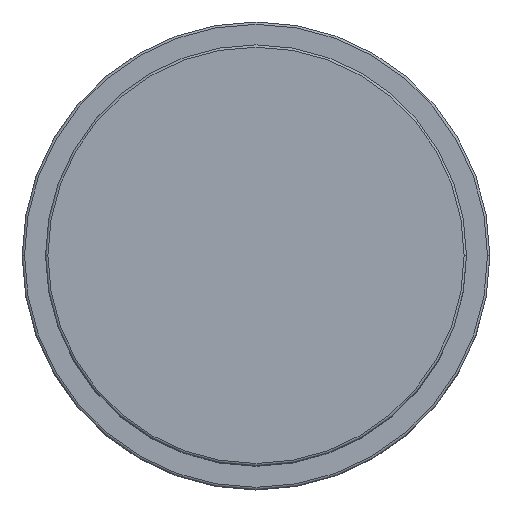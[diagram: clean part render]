
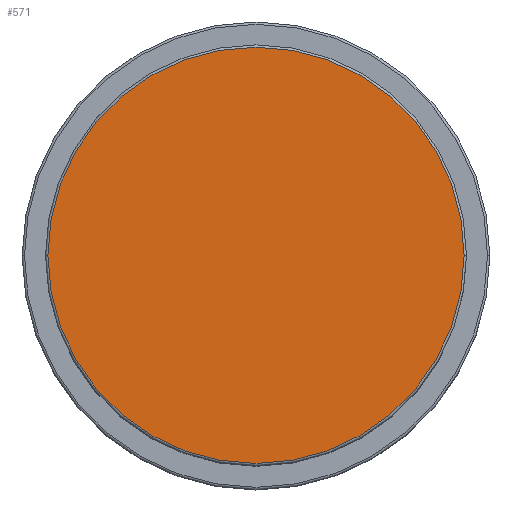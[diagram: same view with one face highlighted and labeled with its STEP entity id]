
A CAD part, top view. The second image highlights one B-rep face of the part: STEP entity #571.
In plain terms, the highlighted planar face has unit normal (0, 0, 1).
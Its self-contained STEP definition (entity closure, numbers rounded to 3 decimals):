
#73 = AXIS2_PLACEMENT_3D ( 'NONE', #207, #1438, #1719 ) ;
#120 = VERTEX_POINT ( 'NONE', #1179 ) ;
#150 = CIRCLE ( 'NONE', #361, 44.5 ) ;
#207 = CARTESIAN_POINT ( 'NONE',  ( 0., 0., 82. ) ) ;
#227 = CARTESIAN_POINT ( 'NONE',  ( 0., 0., 82. ) ) ;
#264 = EDGE_LOOP ( 'NONE', ( #637, #1567 ) ) ;
#361 = AXIS2_PLACEMENT_3D ( 'NONE', #1230, #1363, #1654 ) ;
#494 = PLANE ( 'NONE',  #73 ) ;
#571 = ADVANCED_FACE ( 'NONE', ( #1429 ), #494, .T. ) ;
#637 = ORIENTED_EDGE ( 'NONE', *, *, #1631, .T. ) ;
#737 = EDGE_CURVE ( 'NONE', #1092, #120, #150, .T. ) ;
#773 = DIRECTION ( 'NONE',  ( 1., 0., 0. ) ) ;
#791 = CARTESIAN_POINT ( 'NONE',  ( -44.5, 0., 82. ) ) ;
#1092 = VERTEX_POINT ( 'NONE', #791 ) ;
#1179 = CARTESIAN_POINT ( 'NONE',  ( 44.5, 0., 82. ) ) ;
#1230 = CARTESIAN_POINT ( 'NONE',  ( 0., 0., 82. ) ) ;
#1354 = CIRCLE ( 'NONE', #1561, 44.5 ) ;
#1363 = DIRECTION ( 'NONE',  ( 0., 0., 1. ) ) ;
#1429 = FACE_OUTER_BOUND ( 'NONE', #264, .T. ) ;
#1438 = DIRECTION ( 'NONE',  ( 0., 0., 1. ) ) ;
#1561 = AXIS2_PLACEMENT_3D ( 'NONE', #227, #1739, #773 ) ;
#1567 = ORIENTED_EDGE ( 'NONE', *, *, #737, .T. ) ;
#1631 = EDGE_CURVE ( 'NONE', #120, #1092, #1354, .T. ) ;
#1654 = DIRECTION ( 'NONE',  ( 1., 0., 0. ) ) ;
#1719 = DIRECTION ( 'NONE',  ( 1., 0., 0. ) ) ;
#1739 = DIRECTION ( 'NONE',  ( 0., 0., 1. ) ) ;
